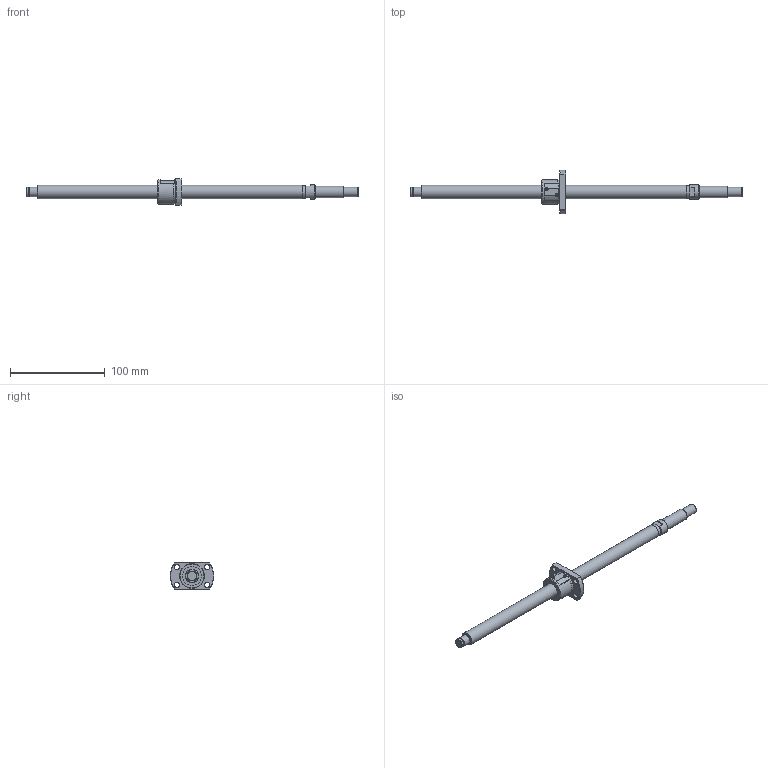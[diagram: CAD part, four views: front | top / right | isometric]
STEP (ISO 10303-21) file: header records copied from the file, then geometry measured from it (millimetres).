
FILE_DESCRIPTION(/* description */ ('STEP AP214'),/* implementation_level */ '2;1');
FILE_NAME(/* name */ 'SG1402-279R350C3B0X(127)',/* time_stamp */ '2026-07-24T21:00:24+02:00',/* author */ ('License CC BY-ND 4.0'),/* organization */ ('CADENAS'),/* preprocessor_version */ 'ST-DEVELOPER v20',/* originating_system */ 'PARTsolutions',/* authorisation */ ' ');
FILE_SCHEMA (('AUTOMOTIVE_DESIGN {1 0 10303 214 3 1 1}'));
Length unit declared in the file: millimetre
Products named in the file (3): SG1402-279R350C3B0X(127); SG1402-279R350C3B_shaft; SG1402_nut
Assembly tree (2 placements, depth 2):
  SG1402-279R350C3B0X(127)
    SG1402-279R350C3B_shaft
    SG1402_nut
Bounding box: 350 x 46 x 28 mm (x, y, z)
Volume: 62881.1 mm3; surface area: 21058.8 mm2
Topology: 2 solids, 2 shells, 85 faces, 201 edges, 131 vertices
Faces by surface type: plane 41, cylinder 29, cone 14, torus 1
Full cylindrical faces by diameter (mm): 5.5 x4, 9.6 x1, 10 x3, 12 x1, 12.77 x1, 14 x2, 15 x1, 20 x2, 25.6 x1, 26 x1
Entity records: 2355 total; most frequent: CARTESIAN_POINT 432, DIRECTION 404, ORIENTED_EDGE 326, AXIS2_PLACEMENT_3D 171, EDGE_CURVE 163, EDGE_LOOP 134, FACE_BOUND 134, VERTEX_POINT 121
